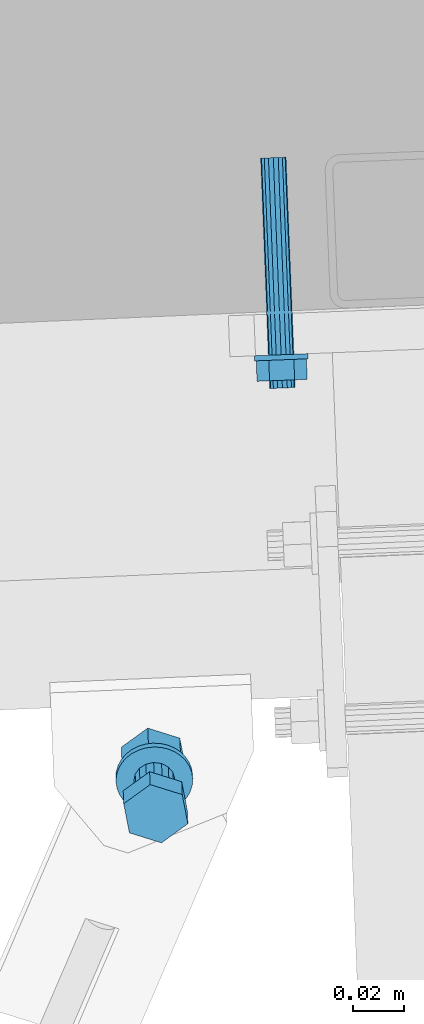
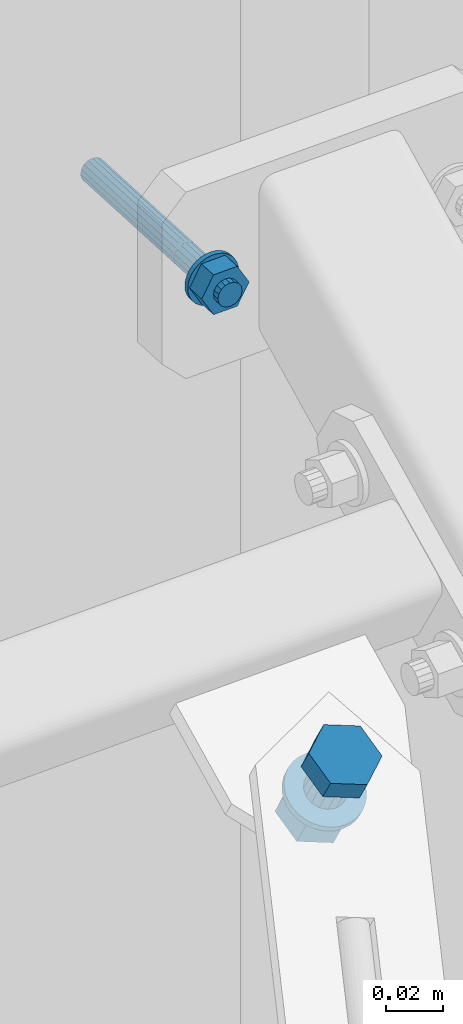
# One storey, part 264 of 288: 2 mechanical fasteners.
"""IFC2X3 building model written with IfcOpenShell, lengths in millimetres."""

from ifc_helpers import new_model, entity, si_unit, converted_unit, origin_with_axes, place, context, project, spatial, faceted_brep, element, save


model = new_model("IFC2X3")

# Units and contexts
model_context = context("Model", 3, precision=1e-09, world=origin_with_axes())
ifc_project = project(units=[si_unit("LENGTHUNIT", "METRE", prefix="MILLI"), si_unit("AREAUNIT", "SQUARE_METRE"), si_unit("VOLUMEUNIT", "CUBIC_METRE"), converted_unit("PLANEANGLEUNIT", "DEGREE", entity("IfcPlaneAngleMeasure", 0.01745329), si_unit("PLANEANGLEUNIT", "RADIAN"), dimensions=[0, 0, 0, 0, 0, 0, 0])], contexts=[model_context])

# Site, building, storey
site_placement = place(None, origin_with_axes())
site = spatial("IfcSite", under=ifc_project, at=site_placement, Name="Remont ?wietlik?w nad MC w NCPP w Opolu", CompositionType="ELEMENT")
building_placement = place(site_placement, origin_with_axes())
building = spatial("IfcBuilding", under=site, at=building_placement, Name="Konstrukcja 1", CompositionType="ELEMENT")
storey_placement = place(building_placement, origin_with_axes())
storey = spatial("IfcBuildingStorey", under=building, at=storey_placement, Name="Default Storey", CompositionType="ELEMENT", Elevation=0.0)

# Mechanical fasteners
mechanical_fastener_1_placement = place(None, origin_with_axes())
element("IfcMechanicalFastener", 1, at=mechanical_fastener_1_placement, inside=storey, ObjectType="Anchor_Bolt", NominalDiameter=10.0, NominalLength=90.0, context=model_context, shape_type="Brep", body=[
    faceted_brep([(3341.560110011, 15676.316460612, 1297.806434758), (3341.481323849, 15678.314908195, 1297.806434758), (3339.434465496, 15678.234213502, 1297.604680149), (3339.513251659, 15676.235765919, 1297.604680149), (3337.466266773, 15678.156619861, 1297.007169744), (3337.545052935, 15676.158172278, 1297.007169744), (3335.652364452, 15678.085109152, 1296.036865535), (3335.731150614, 15676.086661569, 1296.036865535), (3334.062465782, 15678.022429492, 1294.731055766), (3334.141251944, 15676.02398191, 1294.731055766), (3332.757669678, 15677.970989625, 1293.139921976), (3332.83645584, 15675.972542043, 1293.139921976), (3331.788118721, 15677.932766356, 1291.324610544), (3331.866904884, 15675.934318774, 1291.324610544), (3331.191072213, 15677.909228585, 1289.35488287), (3331.269858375, 15675.910781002, 1289.35488287), (3330.989474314, 15677.901280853, 1287.306434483), (3331.068260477, 15675.90283327, 1287.306434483), (3331.19107232, 15677.909228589, 1285.257986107), (3331.269858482, 15675.910781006, 1285.257986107), (3331.788118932, 15677.932766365, 1283.288258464), (3331.866905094, 15675.934318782, 1283.288258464), (3332.757669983, 15677.970989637, 1281.472947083), (3332.836456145, 15675.972542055, 1281.472947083), (3334.06246617, 15678.022429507, 1279.881813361), (3334.141252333, 15676.023981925, 1279.881813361), (3335.652364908, 15678.08510917, 1278.576003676), (3335.731151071, 15676.086661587, 1278.576003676), (3337.46626728, 15678.156619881, 1277.605699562), (3337.545053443, 15676.158172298, 1277.605699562), (3339.434466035, 15678.234213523, 1277.00818926), (3339.513252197, 15676.23576594, 1277.00818926), (3341.481324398, 15678.314908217, 1276.806434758), (3341.56011056, 15676.316460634, 1276.806434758), (3343.52818275, 15678.39560291, 1277.008189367), (3343.606968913, 15676.397155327, 1277.008189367), (3345.496381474, 15678.473196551, 1277.605699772), (3345.575167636, 15676.474748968, 1277.605699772), (3347.310283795, 15678.54470726, 1278.576003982), (3347.389069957, 15676.546259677, 1278.576003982), (3348.900182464, 15678.60738692, 1279.88181375), (3348.978968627, 15676.608939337, 1279.88181375), (3350.204978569, 15678.658826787, 1281.47294754), (3350.283764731, 15676.660379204, 1281.47294754), (3351.174529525, 15678.697050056, 1283.288258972), (3351.253315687, 15676.698602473, 1283.288258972), (3351.771576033, 15678.720587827, 1285.257986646), (3351.850362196, 15676.722140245, 1285.257986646), (3351.973173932, 15678.728535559, 1287.306435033), (3352.051960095, 15676.730087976, 1287.306435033), (3351.771575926, 15678.720587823, 1289.354883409), (3351.850362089, 15676.722140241, 1289.354883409), (3351.174529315, 15678.697050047, 1291.324611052), (3351.253315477, 15676.698602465, 1291.324611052), (3350.204978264, 15678.658826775, 1293.139922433), (3350.283764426, 15676.660379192, 1293.139922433), (3348.900182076, 15678.607386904, 1294.731056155), (3348.978968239, 15676.608939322, 1294.731056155), (3347.310283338, 15678.544707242, 1296.03686584), (3347.389069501, 15676.546259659, 1296.03686584), (3345.496380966, 15678.473196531, 1297.007169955), (3345.575167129, 15676.474748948, 1297.007169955), (3343.528182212, 15678.395602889, 1297.604680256), (3343.606968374, 15676.397155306, 1297.604680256)], [[[0, 1, 2, 3]], [[3, 2, 4, 5]], [[5, 4, 6, 7]], [[7, 6, 8, 9]], [[9, 8, 10, 11]], [[11, 10, 12, 13]], [[13, 12, 14, 15]], [[15, 14, 16, 17]], [[17, 16, 18, 19]], [[19, 18, 20, 21]], [[21, 20, 22, 23]], [[23, 22, 24, 25]], [[25, 24, 26, 27]], [[27, 26, 28, 29]], [[29, 28, 30, 31]], [[31, 30, 32, 33]], [[33, 32, 34, 35]], [[35, 34, 36, 37]], [[37, 36, 38, 39]], [[39, 38, 40, 41]], [[41, 40, 42, 43]], [[43, 42, 44, 45]], [[45, 44, 46, 47]], [[47, 46, 48, 49]], [[49, 48, 50, 51]], [[51, 50, 52, 53]], [[53, 52, 54, 55]], [[55, 54, 56, 57]], [[57, 56, 58, 59]], [[59, 58, 60, 61]], [[61, 60, 62, 63]], [[63, 62, 1, 0]], [[0, 3, 5, 7, 9, 11, 13, 15, 17, 19, 21, 23, 25, 27, 29, 31, 33, 35, 37, 39, 41, 43, 45, 47, 49, 51, 53, 55, 57, 59, 61, 63]], [[1, 62, 60, 58, 56, 54, 52, 50, 48, 46, 44, 42, 40, 38, 36, 34, 32, 30, 28, 26, 24, 22, 20, 18, 16, 14, 12, 10, 8, 6, 4, 2]]]),
    faceted_brep([(3336.66391393, 15676.123434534, 1278.819385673), (3336.97905858, 15668.129644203, 1278.819385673), (3332.08286178, 15667.936618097, 1287.306434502), (3331.767717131, 15675.930408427, 1287.306434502), (3336.979058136, 15668.129644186, 1295.793483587), (3336.663913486, 15676.123434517, 1295.793483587), (3346.771451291, 15668.515696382, 1295.793483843), (3346.456306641, 15676.509486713, 1295.793483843), (3351.66764809, 15668.708722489, 1287.306435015), (3351.352503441, 15676.702512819, 1287.306435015), (3346.771451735, 15668.5156964, 1278.819385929), (3346.456307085, 15676.50948673, 1278.819385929)], [[[0, 1, 2, 3]], [[3, 2, 4, 5]], [[5, 4, 6, 7]], [[7, 6, 8, 9]], [[9, 8, 10, 11]], [[11, 10, 1, 0]], [[4, 2, 1, 10, 8, 6]], [[0, 3, 5, 7, 9, 11]]]),
    faceted_brep([(3341.993434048, 15665.324998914, 1292.306434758), (3341.875254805, 15668.322670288, 1292.306434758), (3339.963322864, 15668.24729489, 1291.925832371), (3340.081502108, 15665.249623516, 1291.925832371), (3338.342465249, 15668.183394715, 1290.841968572), (3338.460644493, 15665.185723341, 1290.841968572), (3337.259442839, 15668.140697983, 1289.219851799), (3337.377622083, 15665.143026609, 1289.219851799), (3336.879135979, 15668.125704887, 1287.306434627), (3336.997315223, 15665.128033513, 1287.306434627), (3337.259442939, 15668.140697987, 1285.393017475), (3337.377622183, 15665.143026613, 1285.393017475), (3338.342465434, 15668.183394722, 1283.77090076), (3338.460644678, 15665.185723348, 1283.77090076), (3339.963323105, 15668.2472949, 1282.687037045), (3340.081502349, 15665.249623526, 1282.687037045), (3341.875255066, 15668.322670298, 1282.306434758), (3341.99343431, 15665.324998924, 1282.306434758), (3343.787187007, 15668.398045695, 1282.687037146), (3343.905366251, 15665.400374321, 1282.687037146), (3345.408044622, 15668.461945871, 1283.770900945), (3345.526223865, 15665.464274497, 1283.770900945), (3346.491067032, 15668.504642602, 1285.393017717), (3346.609246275, 15665.506971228, 1285.393017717), (3346.871373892, 15668.519635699, 1287.306434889), (3346.989553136, 15665.521964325, 1287.306434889), (3346.491066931, 15668.504642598, 1289.219852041), (3346.609246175, 15665.506971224, 1289.219852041), (3345.408044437, 15668.461945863, 1290.841968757), (3345.526223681, 15665.464274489, 1290.841968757), (3343.787186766, 15668.398045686, 1291.925832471), (3343.905366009, 15665.400374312, 1291.925832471)], [[[0, 1, 2, 3]], [[3, 2, 4, 5]], [[5, 4, 6, 7]], [[7, 6, 8, 9]], [[9, 8, 10, 11]], [[11, 10, 12, 13]], [[13, 12, 14, 15]], [[15, 14, 16, 17]], [[17, 16, 18, 19]], [[19, 18, 20, 21]], [[21, 20, 22, 23]], [[23, 22, 24, 25]], [[25, 24, 26, 27]], [[27, 26, 28, 29]], [[29, 28, 30, 31]], [[31, 30, 1, 0]], [[0, 3, 5, 7, 9, 11, 13, 15, 17, 19, 21, 23, 25, 27, 29, 31]], [[1, 30, 28, 26, 24, 22, 20, 18, 16, 14, 12, 10, 8, 6, 4, 2]]]),
    faceted_brep([(3341.481323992, 15678.314908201, 1292.306434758), (3340.851034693, 15694.302488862, 1292.306434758), (3338.939102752, 15694.227113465, 1291.925832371), (3339.569392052, 15678.239532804, 1291.925832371), (3337.318245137, 15694.163213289, 1290.841968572), (3337.948534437, 15678.175632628, 1290.841968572), (3336.235222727, 15694.120516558, 1289.219851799), (3336.865512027, 15678.132935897, 1289.219851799), (3335.854915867, 15694.105523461, 1287.306434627), (3336.485205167, 15678.1179428, 1287.306434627), (3336.235222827, 15694.120516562, 1285.393017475), (3336.865512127, 15678.132935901, 1285.393017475), (3337.318245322, 15694.163213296, 1283.77090076), (3337.948534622, 15678.175632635, 1283.77090076), (3338.939102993, 15694.227113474, 1282.687037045), (3339.569392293, 15678.239532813, 1282.687037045), (3340.851034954, 15694.302488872, 1282.306434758), (3341.481324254, 15678.314908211, 1282.306434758), (3342.762966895, 15694.37786427, 1282.687037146), (3343.393256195, 15678.390283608, 1282.687037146), (3344.38382451, 15694.441764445, 1283.770900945), (3345.014113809, 15678.454183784, 1283.770900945), (3345.466846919, 15694.484461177, 1285.393017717), (3346.097136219, 15678.496880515, 1285.393017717), (3345.84715378, 15694.499454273, 1287.306434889), (3346.47744308, 15678.511873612, 1287.306434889), (3345.466846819, 15694.484461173, 1289.219852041), (3346.097136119, 15678.496880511, 1289.219852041), (3344.383824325, 15694.441764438, 1290.841968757), (3345.014113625, 15678.454183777, 1290.841968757), (3342.762966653, 15694.37786426, 1291.925832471), (3343.393255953, 15678.390283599, 1291.925832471)], [[[0, 1, 2, 3]], [[3, 2, 4, 5]], [[5, 4, 6, 7]], [[7, 6, 8, 9]], [[9, 8, 10, 11]], [[11, 10, 12, 13]], [[13, 12, 14, 15]], [[15, 14, 16, 17]], [[17, 16, 18, 19]], [[19, 18, 20, 21]], [[21, 20, 22, 23]], [[23, 22, 24, 25]], [[25, 24, 26, 27]], [[27, 26, 28, 29]], [[29, 28, 30, 31]], [[31, 30, 1, 0]], [[0, 3, 5, 7, 9, 11, 13, 15, 17, 19, 21, 23, 25, 27, 29, 31]], [[1, 30, 28, 26, 24, 22, 20, 18, 16, 14, 12, 10, 8, 6, 4, 2]]]),
    faceted_brep([(3340.851034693, 15694.302488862, 1292.306434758), (3340.811641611, 15695.301712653, 1292.306434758), (3339.836947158, 15695.263286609, 1292.210361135), (3339.876340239, 15694.264062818, 1292.210361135), (3338.899709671, 15695.226337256, 1291.925832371), (3338.939102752, 15694.227113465, 1291.925832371), (3338.035946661, 15695.192284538, 1291.463782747), (3338.075339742, 15694.193060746, 1291.463782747), (3337.278852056, 15695.162437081, 1290.841968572), (3337.318245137, 15694.163213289, 1290.841968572), (3336.657520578, 15695.137941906, 1290.084285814), (3336.696913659, 15694.138718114, 1290.084285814), (3336.195829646, 15695.119740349, 1289.219851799), (3336.235222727, 15694.120516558, 1289.219851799), (3335.911521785, 15695.108531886, 1288.28188624), (3335.950914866, 15694.109308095, 1288.28188624), (3335.815522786, 15695.104747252, 1287.306434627), (3335.854915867, 15694.105523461, 1287.306434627), (3335.911521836, 15695.108531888, 1286.33098302), (3335.950914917, 15694.109308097, 1286.33098302), (3336.195829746, 15695.119740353, 1285.393017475), (3336.235222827, 15694.120516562, 1285.393017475), (3336.657520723, 15695.137941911, 1284.528583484), (3336.696913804, 15694.13871812, 1284.528583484), (3337.278852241, 15695.162437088, 1283.77090076), (3337.318245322, 15694.163213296, 1283.77090076), (3338.035946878, 15695.192284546, 1283.149086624), (3338.075339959, 15694.193060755, 1283.149086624), (3338.899709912, 15695.226337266, 1282.687037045), (3338.939102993, 15694.227113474, 1282.687037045), (3339.836947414, 15695.263286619, 1282.402508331), (3339.876340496, 15694.264062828, 1282.402508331), (3340.811641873, 15695.301712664, 1282.306434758), (3340.851034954, 15694.302488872, 1282.306434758), (3341.786336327, 15695.340138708, 1282.402508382), (3341.825729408, 15694.340914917, 1282.402508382), (3342.723573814, 15695.377088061, 1282.687037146), (3342.762966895, 15694.37786427, 1282.687037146), (3343.587336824, 15695.411140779, 1283.149086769), (3343.626729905, 15694.411916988, 1283.149086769), (3344.344431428, 15695.440988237, 1283.770900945), (3344.38382451, 15694.441764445, 1283.770900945), (3344.965762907, 15695.465483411, 1284.528583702), (3345.005155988, 15694.46625962, 1284.528583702), (3345.427453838, 15695.483684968, 1285.393017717), (3345.466846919, 15694.484461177, 1285.393017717), (3345.7117617, 15695.494893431, 1286.330983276), (3345.751154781, 15694.495669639, 1286.330983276), (3345.807760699, 15695.498678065, 1287.306434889), (3345.84715378, 15694.499454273, 1287.306434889), (3345.711761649, 15695.494893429, 1288.281886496), (3345.75115473, 15694.495669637, 1288.281886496), (3345.427453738, 15695.483684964, 1289.219852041), (3345.466846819, 15694.484461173, 1289.219852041), (3344.965762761, 15695.465483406, 1290.084286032), (3345.005155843, 15694.466259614, 1290.084286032), (3344.344431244, 15695.440988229, 1290.841968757), (3344.383824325, 15694.441764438, 1290.841968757), (3343.587336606, 15695.411140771, 1291.463782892), (3343.626729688, 15694.411916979, 1291.463782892), (3342.723573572, 15695.377088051, 1291.925832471), (3342.762966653, 15694.37786426, 1291.925832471), (3341.78633607, 15695.340138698, 1292.210361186), (3341.825729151, 15694.340914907, 1292.210361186)], [[[0, 1, 2, 3]], [[3, 2, 4, 5]], [[5, 4, 6, 7]], [[7, 6, 8, 9]], [[9, 8, 10, 11]], [[11, 10, 12, 13]], [[13, 12, 14, 15]], [[15, 14, 16, 17]], [[17, 16, 18, 19]], [[19, 18, 20, 21]], [[21, 20, 22, 23]], [[23, 22, 24, 25]], [[25, 24, 26, 27]], [[27, 26, 28, 29]], [[29, 28, 30, 31]], [[31, 30, 32, 33]], [[33, 32, 34, 35]], [[35, 34, 36, 37]], [[37, 36, 38, 39]], [[39, 38, 40, 41]], [[41, 40, 42, 43]], [[43, 42, 44, 45]], [[45, 44, 46, 47]], [[47, 46, 48, 49]], [[49, 48, 50, 51]], [[51, 50, 52, 53]], [[53, 52, 54, 55]], [[55, 54, 56, 57]], [[57, 56, 58, 59]], [[59, 58, 60, 61]], [[61, 60, 62, 63]], [[63, 62, 1, 0]], [[0, 3, 5, 7, 9, 11, 13, 15, 17, 19, 21, 23, 25, 27, 29, 31, 33, 35, 37, 39, 41, 43, 45, 47, 49, 51, 53, 55, 57, 59, 61, 63]], [[1, 62, 60, 58, 56, 54, 52, 50, 48, 46, 44, 42, 40, 38, 36, 34, 32, 30, 28, 26, 24, 22, 20, 18, 16, 14, 12, 10, 8, 6, 4, 2]]]),
    faceted_brep([(3340.811641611, 15695.301712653, 1292.306434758), (3338.448056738, 15755.255140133, 1292.306434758), (3336.536124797, 15755.179764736, 1291.925832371), (3338.899709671, 15695.226337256, 1291.925832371), (3334.915267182, 15755.11586456, 1290.841968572), (3337.278852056, 15695.162437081, 1290.841968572), (3333.832244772, 15755.073167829, 1289.219851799), (3336.195829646, 15695.119740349, 1289.219851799), (3333.451937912, 15755.058174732, 1287.306434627), (3335.815522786, 15695.104747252, 1287.306434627), (3333.832244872, 15755.073167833, 1285.393017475), (3336.195829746, 15695.119740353, 1285.393017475), (3334.915267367, 15755.115864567, 1283.77090076), (3337.278852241, 15695.162437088, 1283.77090076), (3336.536125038, 15755.179764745, 1282.687037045), (3338.899709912, 15695.226337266, 1282.687037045), (3338.448056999, 15755.255140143, 1282.306434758), (3340.811641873, 15695.301712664, 1282.306434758), (3340.35998894, 15755.33051554, 1282.687037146), (3342.723573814, 15695.377088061, 1282.687037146), (3341.980846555, 15755.394415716, 1283.770900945), (3344.344431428, 15695.440988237, 1283.770900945), (3343.063868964, 15755.437112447, 1285.393017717), (3345.427453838, 15695.483684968, 1285.393017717), (3343.444175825, 15755.452105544, 1287.306434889), (3345.807760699, 15695.498678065, 1287.306434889), (3343.063868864, 15755.437112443, 1289.219852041), (3345.427453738, 15695.483684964, 1289.219852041), (3341.98084637, 15755.394415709, 1290.841968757), (3344.344431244, 15695.440988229, 1290.841968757), (3340.359988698, 15755.330515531, 1291.925832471), (3342.723573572, 15695.377088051, 1291.925832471)], [[[0, 1, 2, 3]], [[3, 2, 4, 5]], [[5, 4, 6, 7]], [[7, 6, 8, 9]], [[9, 8, 10, 11]], [[11, 10, 12, 13]], [[13, 12, 14, 15]], [[15, 14, 16, 17]], [[17, 16, 18, 19]], [[19, 18, 20, 21]], [[21, 20, 22, 23]], [[23, 22, 24, 25]], [[25, 24, 26, 27]], [[27, 26, 28, 29]], [[29, 28, 30, 31]], [[31, 30, 1, 0]], [[0, 3, 5, 7, 9, 11, 13, 15, 17, 19, 21, 23, 25, 27, 29, 31]], [[1, 30, 28, 26, 24, 22, 20, 18, 16, 14, 12, 10, 8, 6, 4, 2]]]),
])
mechanical_fastener_2_placement = place(None, origin_with_axes())
element("IfcMechanicalFastener", 2, at=mechanical_fastener_2_placement, inside=storey, ObjectType="Bolt#1", NominalDiameter=16.0, NominalLength=40.0, context=model_context, shape_type="Brep", body=[
    faceted_brep([(3282.035846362, 15496.710207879, 1196.624335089), (3282.251795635, 15491.675070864, 1205.261508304), (3280.044090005, 15503.047397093, 1211.946331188), (3279.828140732, 15508.082534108, 1203.309157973), (3290.36170503, 15510.509944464, 1216.038742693), (3290.145755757, 15515.545081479, 1207.401569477), (3302.887025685, 15506.600165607, 1213.446331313), (3302.671076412, 15511.635302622, 1204.809158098), (3305.094731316, 15495.227839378, 1206.761508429), (3304.878782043, 15500.262976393, 1198.124335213), (3294.77711629, 15487.765292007, 1202.669096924), (3294.561167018, 15492.800429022, 1194.031923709)], [[[0, 1, 2, 3]], [[3, 2, 4, 5]], [[5, 4, 6, 7]], [[7, 6, 8, 9]], [[9, 8, 10, 11]], [[11, 10, 1, 0]], [[4, 2, 1, 10, 8, 6]], [[0, 3, 5, 7, 9, 11]]]),
    faceted_brep([(3295.154064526, 15510.677021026, 1204.438459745), (3294.808545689, 15518.73324025, 1190.6189826), (3291.728382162, 15519.133060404, 1190.929073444), (3292.073900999, 15511.07684118, 1204.748550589), (3288.690779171, 15518.481796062, 1190.625358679), (3289.036298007, 15510.425576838, 1204.444835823), (3286.158184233, 15516.878596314, 1189.754076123), (3286.50370307, 15508.822377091, 1203.573553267), (3284.516161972, 15514.567533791, 1188.447870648), (3284.861680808, 15506.511314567, 1202.267347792), (3284.01469539, 15511.900446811, 1186.905600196), (3284.360214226, 15503.844227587, 1200.725077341), (3284.730128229, 15509.283375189, 1185.362061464), (3285.075647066, 15501.227155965, 1199.181538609), (3286.553542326, 15507.114744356, 1184.052244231), (3286.899061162, 15499.058525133, 1197.871721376), (3289.207339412, 15505.724708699, 1183.175556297), (3289.552858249, 15497.668489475, 1196.995033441), (3292.287502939, 15505.324888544, 1182.865465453), (3292.633021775, 15497.26866932, 1196.684942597), (3295.325105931, 15505.976152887, 1183.169180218), (3295.670624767, 15497.919933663, 1196.988657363), (3297.857700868, 15507.579352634, 1184.040462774), (3298.203219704, 15499.52313341, 1197.859939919), (3299.49972313, 15509.890415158, 1185.346668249), (3299.845241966, 15501.834195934, 1199.166145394), (3300.001189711, 15512.557502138, 1186.888938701), (3300.346708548, 15504.501282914, 1200.708415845), (3299.285756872, 15515.17457376, 1188.432477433), (3299.631275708, 15507.118354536, 1202.251954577), (3297.462342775, 15517.343204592, 1189.742294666), (3297.807861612, 15509.286985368, 1203.561771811)], [[[0, 1, 2, 3]], [[3, 2, 4, 5]], [[5, 4, 6, 7]], [[7, 6, 8, 9]], [[9, 8, 10, 11]], [[11, 10, 12, 13]], [[13, 12, 14, 15]], [[15, 14, 16, 17]], [[17, 16, 18, 19]], [[19, 18, 20, 21]], [[21, 20, 22, 23]], [[23, 22, 24, 25]], [[25, 24, 26, 27]], [[27, 26, 28, 29]], [[29, 28, 30, 31]], [[31, 30, 1, 0]], [[0, 3, 5, 7, 9, 11, 13, 15, 17, 19, 21, 23, 25, 27, 29, 31]], [[1, 30, 28, 26, 24, 22, 20, 18, 16, 14, 12, 10, 8, 6, 4, 2]]]),
    faceted_brep([(3297.259073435, 15524.424472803, 1193.875481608), (3297.194288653, 15525.935013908, 1191.284329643), (3294.35293861, 15526.556112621, 1191.717446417), (3294.417723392, 15525.045571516, 1194.308598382), (3291.418982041, 15526.684676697, 1191.865749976), (3291.483766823, 15525.174135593, 1194.456901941), (3288.505169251, 15526.315765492, 1191.723541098), (3288.569954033, 15524.805224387, 1194.314693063), (3285.723476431, 15525.463556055, 1191.29628479), (3285.788261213, 15523.953014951, 1193.887436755), (3283.180802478, 15524.160798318, 1190.600400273), (3283.24558726, 15522.650257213, 1193.191552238), (3280.974860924, 15522.457556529, 1189.662629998), (3281.039645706, 15520.947015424, 1192.253781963), (3279.190424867, 15520.419285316, 1188.519011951), (3279.255209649, 15518.908744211, 1191.110163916), (3277.896069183, 15518.124314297, 1187.213494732), (3277.960853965, 15516.613773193, 1189.804646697), (3277.141535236, 15515.660837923, 1185.796248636), (3277.206320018, 15514.150296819, 1188.387400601), (3276.955819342, 15513.123526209, 1184.321737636), (3277.020604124, 15511.612985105, 1186.912889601), (3277.346058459, 15510.609886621, 1182.846626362), (3277.410843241, 15509.099345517, 1185.437778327), (3278.297255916, 15508.216516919, 1181.427602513), (3278.362040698, 15506.705975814, 1184.018754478), (3279.772857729, 15506.035392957, 1180.11919838), (3279.837642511, 15504.524851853, 1182.710350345), (3281.716157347, 15504.150334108, 1178.971695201), (3281.780942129, 15502.639793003, 1181.562847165), (3284.052474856, 15502.633782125, 1178.029190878), (3284.117259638, 15501.12324102, 1180.620342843), (3286.692026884, 15501.54401725, 1177.327905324), (3286.756811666, 15500.033476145, 1179.919057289), (3289.533376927, 15500.922918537, 1176.894788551), (3289.598161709, 15499.412377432, 1179.485940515), (3292.467333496, 15500.79435446, 1176.746484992), (3292.532118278, 15499.283813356, 1179.337636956), (3295.381146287, 15501.163265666, 1176.88869387), (3295.445931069, 15499.652724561, 1179.479845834), (3298.162839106, 15502.015475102, 1177.315950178), (3298.227623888, 15500.504933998, 1179.907102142), (3300.70551306, 15503.31823284, 1178.011834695), (3300.770297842, 15501.807691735, 1180.602986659), (3302.911454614, 15505.021474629, 1178.94960497), (3302.976239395, 15503.510933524, 1181.540756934), (3304.695890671, 15507.059745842, 1180.093223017), (3304.760675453, 15505.549204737, 1182.684374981), (3305.990246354, 15509.35471686, 1181.398740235), (3306.055031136, 15507.844175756, 1183.9898922), (3306.744780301, 15511.818193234, 1182.815986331), (3306.809565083, 15510.30765213, 1185.407138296), (3306.930496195, 15514.355504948, 1184.290497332), (3306.995280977, 15512.844963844, 1186.881649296), (3306.540257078, 15516.869144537, 1185.765608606), (3306.60504186, 15515.358603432, 1188.35676057), (3305.589059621, 15519.262514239, 1187.184632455), (3305.653844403, 15517.751973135, 1189.775784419), (3304.113457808, 15521.4436382, 1188.493036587), (3304.17824259, 15519.933097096, 1191.084188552), (3302.17015819, 15523.32869705, 1189.640539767), (3302.234942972, 15521.818155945, 1192.231691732), (3299.833840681, 15524.845249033, 1190.58304409), (3299.898625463, 15523.334707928, 1193.174196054)], [[[0, 1, 2, 3]], [[3, 2, 4, 5]], [[5, 4, 6, 7]], [[7, 6, 8, 9]], [[9, 8, 10, 11]], [[11, 10, 12, 13]], [[13, 12, 14, 15]], [[15, 14, 16, 17]], [[17, 16, 18, 19]], [[19, 18, 20, 21]], [[21, 20, 22, 23]], [[23, 22, 24, 25]], [[25, 24, 26, 27]], [[27, 26, 28, 29]], [[29, 28, 30, 31]], [[31, 30, 32, 33]], [[33, 32, 34, 35]], [[35, 34, 36, 37]], [[37, 36, 38, 39]], [[39, 38, 40, 41]], [[41, 40, 42, 43]], [[43, 42, 44, 45]], [[45, 44, 46, 47]], [[47, 46, 48, 49]], [[49, 48, 50, 51]], [[51, 50, 52, 53]], [[53, 52, 54, 55]], [[55, 54, 56, 57]], [[57, 56, 58, 59]], [[59, 58, 60, 61]], [[61, 60, 62, 63]], [[63, 62, 1, 0]], [[0, 3, 5, 7, 9, 11, 13, 15, 17, 19, 21, 23, 25, 27, 29, 31, 33, 35, 37, 39, 41, 43, 45, 47, 49, 51, 53, 55, 57, 59, 61, 63]], [[1, 62, 60, 58, 56, 54, 52, 50, 48, 46, 44, 42, 40, 38, 36, 34, 32, 30, 28, 26, 24, 22, 20, 18, 16, 14, 12, 10, 8, 6, 4, 2]]]),
    faceted_brep([(3281.30593782, 15513.728970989, 1167.430689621), (3281.625542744, 15506.276968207, 1180.213705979), (3279.417837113, 15517.649294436, 1186.898528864), (3279.098232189, 15525.101297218, 1174.115512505), (3289.735452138, 15525.111841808, 1190.990940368), (3289.415847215, 15532.56384459, 1178.207924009), (3302.260772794, 15521.20206295, 1188.398528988), (3301.94116787, 15528.654065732, 1175.61551263), (3304.468478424, 15509.829736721, 1181.713706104), (3304.1488735, 15517.281739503, 1168.930689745), (3294.150863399, 15502.36718935, 1177.6212946), (3293.831258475, 15509.819192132, 1164.838278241)], [[[0, 1, 2, 3]], [[3, 2, 4, 5]], [[5, 4, 6, 7]], [[7, 6, 8, 9]], [[9, 8, 10, 11]], [[11, 10, 1, 0]], [[4, 2, 1, 10, 8, 6]], [[0, 3, 5, 7, 9, 11]]]),
    faceted_brep([(3294.424155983, 15527.695784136, 1175.244814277), (3294.290267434, 15530.817569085, 1169.889766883), (3291.210103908, 15531.21738924, 1170.199857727), (3291.343992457, 15528.095604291, 1175.554905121), (3288.172500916, 15530.566124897, 1169.896142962), (3288.306389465, 15527.444339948, 1175.251190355), (3285.639905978, 15528.96292515, 1169.024860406), (3285.773794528, 15525.841140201, 1174.379907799), (3283.997883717, 15526.651862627, 1167.718654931), (3284.131772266, 15523.530077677, 1173.073702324), (3283.496417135, 15523.984775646, 1166.176384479), (3283.630305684, 15520.862990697, 1171.531431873), (3284.211849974, 15521.367704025, 1164.632845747), (3284.345738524, 15518.245919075, 1169.987893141), (3286.035264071, 15519.199073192, 1163.323028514), (3286.16915262, 15516.077288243, 1168.678075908), (3288.689061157, 15517.809037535, 1162.44634058), (3288.822949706, 15514.687252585, 1167.801387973), (3291.769224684, 15517.40921738, 1162.136249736), (3291.903113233, 15514.287432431, 1167.491297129), (3294.806827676, 15518.060481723, 1162.439964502), (3294.940716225, 15514.938696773, 1167.795011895), (3297.339422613, 15519.66368147, 1163.311247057), (3297.473311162, 15516.541896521, 1168.666294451), (3298.981444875, 15521.974743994, 1164.617452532), (3299.115333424, 15518.852959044, 1169.972499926), (3299.482911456, 15524.641830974, 1166.159722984), (3299.616800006, 15521.520046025, 1171.514770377), (3298.767478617, 15527.258902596, 1167.703261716), (3298.901367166, 15524.137117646, 1173.05830911), (3296.944064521, 15529.427533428, 1169.013078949), (3297.07795307, 15526.305748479, 1174.368126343)], [[[0, 1, 2, 3]], [[3, 2, 4, 5]], [[5, 4, 6, 7]], [[7, 6, 8, 9]], [[9, 8, 10, 11]], [[11, 10, 12, 13]], [[13, 12, 14, 15]], [[15, 14, 16, 17]], [[17, 16, 18, 19]], [[19, 18, 20, 21]], [[21, 20, 22, 23]], [[23, 22, 24, 25]], [[25, 24, 26, 27]], [[27, 26, 28, 29]], [[29, 28, 30, 31]], [[31, 30, 1, 0]], [[0, 3, 5, 7, 9, 11, 13, 15, 17, 19, 21, 23, 25, 27, 29, 31]], [[1, 30, 28, 26, 24, 22, 20, 18, 16, 14, 12, 10, 8, 6, 4, 2]]]),
])

save(model, "model.ifc")
